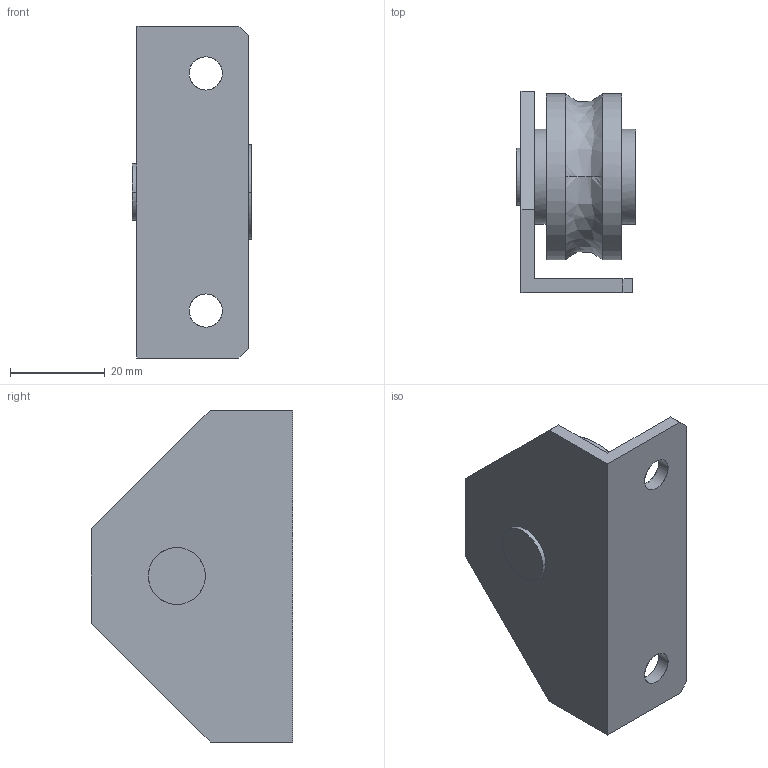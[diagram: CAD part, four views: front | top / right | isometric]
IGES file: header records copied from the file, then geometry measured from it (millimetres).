
Global section: file name: No Iges File Name specified; native system: AutoDesk Inventor R11.0; preprocessor: AutoDesk Inventor Iges Exporter R11.0; author: No Author specified; organization: No Organization specified; date: 20190426.192310; units: millimetre
Bounding box: 25.2 x 42.4 x 70 mm (x, y, z)
Surface area: 12298.7 mm2 (no closed solid volume)
Topology: 0 solids, 0 shells, 35 faces, 230 edges, 230 vertices
Faces by surface type: bspline 35
